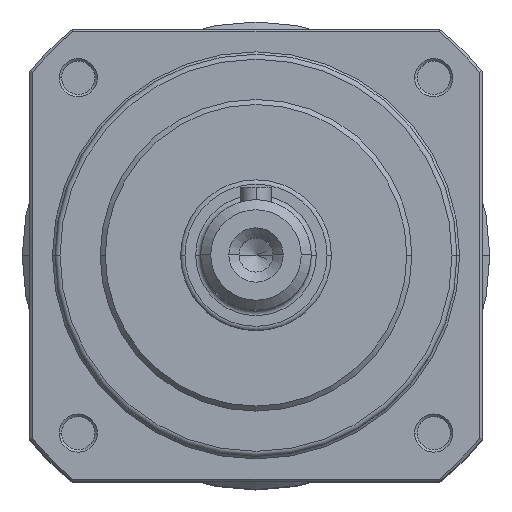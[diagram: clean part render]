
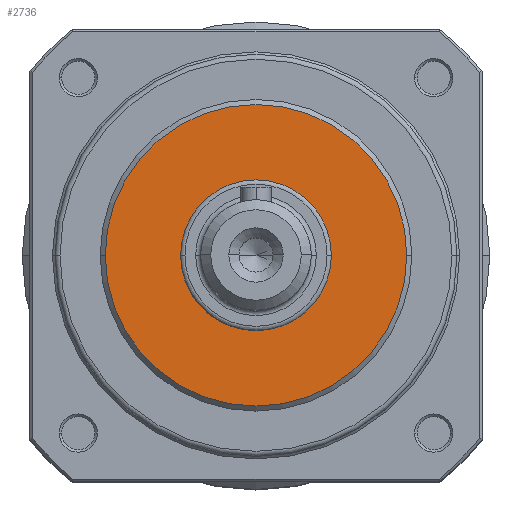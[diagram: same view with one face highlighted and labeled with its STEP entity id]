
A CAD part, top view. The second image highlights one B-rep face of the part: STEP entity #2736.
In plain terms, the highlighted planar face has unit normal (0, 0, 1).
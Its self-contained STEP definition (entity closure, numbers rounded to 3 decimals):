
#13 = CIRCLE ( 'NONE', #4457, 30. ) ;
#200 = DIRECTION ( 'NONE',  ( 1., 0., 0. ) ) ;
#476 = CARTESIAN_POINT ( 'NONE',  ( 15., 0., 19. ) ) ;
#625 = CARTESIAN_POINT ( 'NONE',  ( 30., 0., 19. ) ) ;
#649 = EDGE_LOOP ( 'NONE', ( #1289, #3235 ) ) ;
#677 = CARTESIAN_POINT ( 'NONE',  ( -30., 0., 19. ) ) ;
#703 = CIRCLE ( 'NONE', #3251, 15. ) ;
#957 = DIRECTION ( 'NONE',  ( 0., 0., 1. ) ) ;
#1019 = CARTESIAN_POINT ( 'NONE',  ( -15., 0., 19. ) ) ;
#1025 = DIRECTION ( 'NONE',  ( 0., 0., 1. ) ) ;
#1289 = ORIENTED_EDGE ( 'NONE', *, *, #2599, .F. ) ;
#1382 = CARTESIAN_POINT ( 'NONE',  ( 0., 0., 19. ) ) ;
#1406 = EDGE_CURVE ( 'NONE', #2255, #4380, #3897, .T. ) ;
#1558 = VERTEX_POINT ( 'NONE', #476 ) ;
#1723 = DIRECTION ( 'NONE',  ( 0., 0., 1. ) ) ;
#1869 = EDGE_LOOP ( 'NONE', ( #4054, #3733 ) ) ;
#1873 = DIRECTION ( 'NONE',  ( 0., 0., 1. ) ) ;
#2015 = EDGE_CURVE ( 'NONE', #1558, #3910, #703, .T. ) ;
#2132 = PLANE ( 'NONE',  #3682 ) ;
#2255 = VERTEX_POINT ( 'NONE', #677 ) ;
#2462 = CIRCLE ( 'NONE', #4265, 15. ) ;
#2505 = DIRECTION ( 'NONE',  ( 1., 0., 0. ) ) ;
#2587 = FACE_OUTER_BOUND ( 'NONE', #1869, .T. ) ;
#2599 = EDGE_CURVE ( 'NONE', #3910, #1558, #2462, .T. ) ;
#2736 = ADVANCED_FACE ( 'NONE', ( #4406, #2587 ), #2132, .T. ) ;
#2894 = CARTESIAN_POINT ( 'NONE',  ( 0., 0., 19. ) ) ;
#3042 = AXIS2_PLACEMENT_3D ( 'NONE', #3219, #957, #200 ) ;
#3219 = CARTESIAN_POINT ( 'NONE',  ( 0., 0., 19. ) ) ;
#3235 = ORIENTED_EDGE ( 'NONE', *, *, #2015, .F. ) ;
#3251 = AXIS2_PLACEMENT_3D ( 'NONE', #4382, #1723, #4766 ) ;
#3273 = EDGE_CURVE ( 'NONE', #4380, #2255, #13, .T. ) ;
#3333 = DIRECTION ( 'NONE',  ( 1., 0., 0. ) ) ;
#3682 = AXIS2_PLACEMENT_3D ( 'NONE', #1382, #1873, #3333 ) ;
#3733 = ORIENTED_EDGE ( 'NONE', *, *, #3273, .T. ) ;
#3897 = CIRCLE ( 'NONE', #3042, 30. ) ;
#3910 = VERTEX_POINT ( 'NONE', #1019 ) ;
#4007 = DIRECTION ( 'NONE',  ( 0., 0., 1. ) ) ;
#4034 = CARTESIAN_POINT ( 'NONE',  ( 0., 0., 19. ) ) ;
#4054 = ORIENTED_EDGE ( 'NONE', *, *, #1406, .T. ) ;
#4265 = AXIS2_PLACEMENT_3D ( 'NONE', #2894, #4007, #4781 ) ;
#4380 = VERTEX_POINT ( 'NONE', #625 ) ;
#4382 = CARTESIAN_POINT ( 'NONE',  ( 0., 0., 19. ) ) ;
#4406 = FACE_BOUND ( 'NONE', #649, .T. ) ;
#4457 = AXIS2_PLACEMENT_3D ( 'NONE', #4034, #1025, #2505 ) ;
#4766 = DIRECTION ( 'NONE',  ( 1., 0., 0. ) ) ;
#4781 = DIRECTION ( 'NONE',  ( 1., 0., 0. ) ) ;
